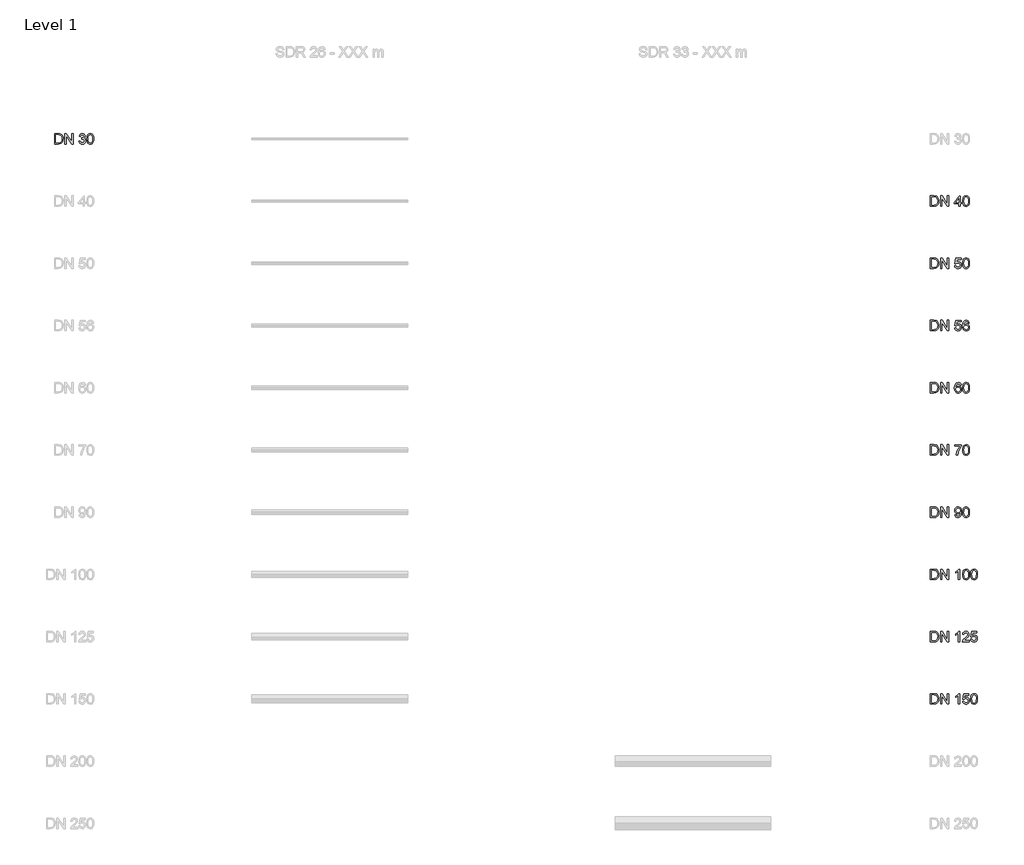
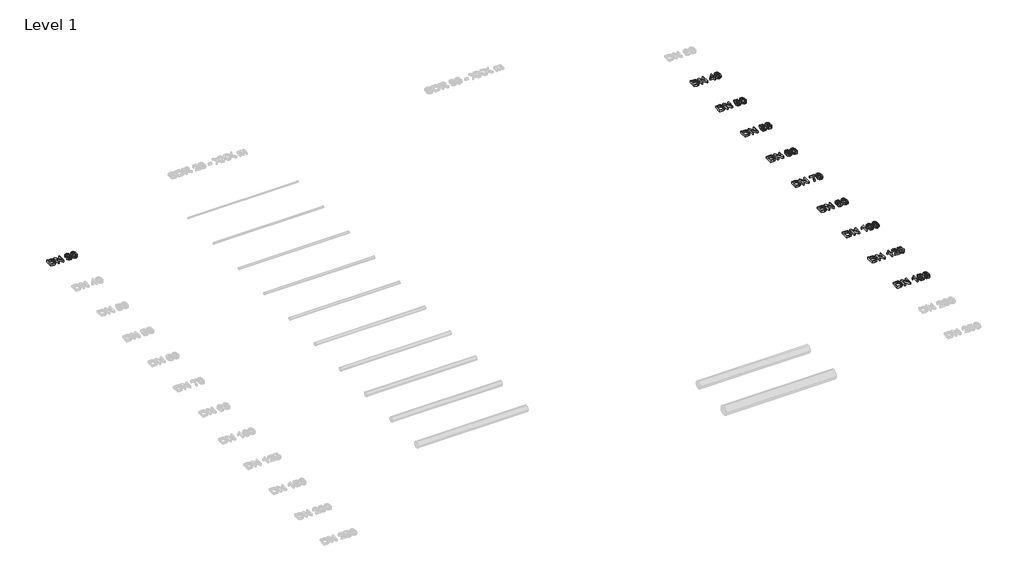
# One storey, part 3 of 4: 10 proxies.
"""IFC4 building model written with IfcOpenShell, lengths in millimetres."""

from ifc_helpers import new_model, si_unit, origin, origin_with_axes, place, context, project, spatial, polyline, outline, extrude, element, save

model = new_model("IFC4")

# Units and contexts
model_context = context("Model", 3, world=origin())
ifc_project = project(units=[si_unit("LENGTHUNIT", "METRE", prefix="MILLI")], contexts=[model_context])

# Site, building, storey
site = spatial("IfcSite", under=ifc_project)
building = spatial("IfcBuilding", under=site)
storey = spatial("IfcBuildingStorey", under=building, Name="Level 1", Elevation=0.0)

# Proxies
placement = place(None, origin())
element("IfcBuildingElementProxy", 1, Name="200mm Arial", ObjectType="200mm Arial", at=placement, inside=storey, context=model_context, shape_type="SweptSolid", body=[
    extrude(outline(polyline([(-19337.4878779, 486.050427), (-19337.4878779, 686.9630473), (-19268.17891, 686.9630473), (-19232.3226782, 684.0690423), (-19216.3075487, 678.4894987), (-19202.7940167, 669.697119), (-19188.90034, 654.393228), (-19179.0043144, 635.3614662), (-19173.0814143, 612.9697154), (-19171.1071142, 587.5858577), (-19176.4536659, 547.0452618), (-19190.187927, 517.7863805), (-19208.5329759, 499.563959), (-19232.5434074, 489.4839923), (-19264.8434466, 486.050427), (-19337.4878779, 486.050427)]), holes=[polyline([(-19312.3738004, 511.1645046), (-19267.9336553, 511.1645046), (-19235.6090907, 514.7942736), (-19216.9697363, 525.0459185), (-19208.2448016, 535.9168315), (-19201.6903707, 549.9883178), (-19197.5884865, 567.3216911), (-19196.2211917, 587.9782652), (-19198.9005989, 615.3486856), (-19206.9388205, 635.5576699), (-19218.8152776, 649.4390838), (-19233.0093913, 657.8267933), (-19268.6203684, 661.8489698), (-19312.3738004, 661.8489698), (-19312.3738004, 511.1645046)])]), origin_with_axes(), (0.0, 0.0, 1.0), 50.0),
    extrude(outline(polyline([(-19136.5752576, 486.050427), (-19136.5752576, 686.9630473), (-19109.6953465, 686.9630473), (-19004.7263505, 527.7927708), (-19004.7263505, 686.9630473), (-18979.612273, 686.9630473), (-18979.612273, 486.050427), (-19006.4921841, 486.050427), (-19111.4611801, 645.2697546), (-19111.4611801, 486.050427), (-19136.5752576, 486.050427)])), origin_with_axes(), (0.0, 0.0, 1.0), 50.0),
    extrude(outline(polyline([(-18866.5989241, 539.4178418), (-18841.4848465, 542.5571015), (-18835.8623834, 526.7749639), (-18827.627958, 516.1186488), (-18816.3769004, 510.0485959), (-18801.7045401, 508.0252449), (-18784.4876627, 510.8088853), (-18771.19486, 519.1598066), (-18762.6967859, 531.6187435), (-18759.8640945, 546.7264308), (-18762.6722604, 561.0676972), (-18771.0967581, 572.6988996), (-18783.8500006, 580.4060274), (-18799.6444009, 582.97507), (-18817.2536858, 580.2282178), (-18814.4577826, 605.3422953), (-18810.4356061, 605.0479898), (-18795.3892325, 606.8506115), (-18781.9370142, 612.2584769), (-18772.4456588, 621.4064758), (-18769.2818736, 634.4294984), (-18771.5750047, 645.2758859), (-18778.454398, 654.074397), (-18788.9512976, 659.9053266), (-18802.0969476, 661.8489698), (-18815.267123, 659.8869325), (-18826.0338027, 654.0008206), (-18833.8942147, 644.190634), (-18838.3455868, 630.4563729), (-18863.4596644, 633.5956326), (-18856.0652363, 656.1467989), (-18842.9073236, 672.9835315), (-18824.9056313, 683.4681684), (-18802.9798644, 686.9630473), (-18787.1915954, 685.2401333), (-18772.6909134, 680.0713913), (-18760.4649685, 671.9166737), (-18751.5009105, 661.2358331), (-18746.0010747, 648.9301804), (-18744.1677961, 635.9010264), (-18745.9091042, 623.7609206), (-18751.1330285, 612.7489862), (-18759.7659927, 603.3679953), (-18771.7344202, 596.12072), (-18756.0135963, 589.7686242), (-18744.3639998, 578.9528936), (-18737.1535127, 564.2621392), (-18734.750017, 546.2849724), (-18739.5570084, 521.808557), (-18753.9779826, 501.354318), (-18775.744334, 487.521955), (-18802.5874569, 482.9111674), (-18826.8676686, 486.8475047), (-18846.6351945, 498.6565167), (-18860.3817184, 516.7195227), (-18866.5989241, 539.4178418)])), origin_with_axes(), (0.0, 0.0, 1.0), 50.0),
    extrude(outline(polyline([(-18712.7751992, 584.8880564), (-18710.9296578, 617.0470742), (-18705.3930338, 642.6945806), (-18696.2205094, 662.2229832), (-18683.4672669, 676.0246894), (-18667.0413358, 684.2284578), (-18646.8507456, 686.9630473), (-18631.3751764, 685.3443666), (-18617.5182879, 680.4883242), (-18605.930005, 672.5849927), (-18597.2602527, 661.8244443), (-18585.4880288, 632.0995791), (-18580.9262921, 584.8880564), (-18582.7534393, 552.9129797), (-18588.2348811, 527.3267869), (-18597.3522232, 507.7799902), (-18610.0870716, 493.9231017), (-18626.5497909, 485.664151), (-18646.8507456, 482.9111674), (-18672.9458418, 487.6936333), (-18692.7624186, 502.0410311), (-18701.5180101, 517.1701782), (-18707.772004, 536.0210647), (-18712.7751992, 584.8880564)]), holes=[polyline([(-18687.6611216, 584.9371073), (-18684.7180657, 545.4327124), (-18675.8888978, 522.5688464), (-18662.7432478, 511.6611453), (-18646.8507456, 508.0252449), (-18630.9582434, 511.673408), (-18617.8125935, 522.6178974), (-18608.9834256, 545.4940261), (-18606.0403696, 584.9371073), (-18608.8853237, 623.5524541), (-18617.420186, 646.5941297), (-18630.5413105, 658.0352598), (-18647.1450512, 661.8489698), (-18662.8658751, 658.4889809), (-18675.4964903, 648.4090143), (-18684.6199638, 623.9325988), (-18687.6611216, 584.9371073)])]), origin_with_axes(), (0.0, 0.0, 1.0), 50.0),
])
element("IfcBuildingElementProxy", 2, Name="200mm Arial", ObjectType="200mm Arial", at=placement, inside=storey, context=model_context, shape_type="SweptSolid", body=[
    extrude(outline(polyline([(-2460.6923074, -713.949573), (-2460.6923074, -513.0369527), (-2391.3833395, -513.0369527), (-2355.5271077, -515.9309577), (-2339.5119782, -521.5105013), (-2325.9984462, -530.302881), (-2312.1047695, -545.606772), (-2302.2087438, -564.6385338), (-2296.2858437, -587.0302846), (-2294.3115437, -612.4141423), (-2299.6580953, -652.9547382), (-2313.3923565, -682.2136195), (-2331.7374053, -700.436041), (-2355.7478369, -710.5160077), (-2388.0478761, -713.949573), (-2460.6923074, -713.949573)]), holes=[polyline([(-2435.5782298, -688.8354954), (-2391.1380848, -688.8354954), (-2358.8135202, -685.2057264), (-2340.1741658, -674.9540815), (-2331.4492311, -664.0831685), (-2324.8948002, -650.0116822), (-2320.792916, -632.6783089), (-2319.4256212, -612.0217348), (-2322.1050284, -584.6513144), (-2330.14325, -564.4423301), (-2342.0197071, -550.5609162), (-2356.2138207, -542.1732067), (-2391.8247979, -538.1510302), (-2435.5782298, -538.1510302), (-2435.5782298, -688.8354954)])]), origin_with_axes(), (0.0, 0.0, 1.0), 50.0),
    extrude(outline(polyline([(-2259.7796871, -713.949573), (-2259.7796871, -513.0369527), (-2232.899776, -513.0369527), (-2127.93078, -672.2072292), (-2127.93078, -513.0369527), (-2102.8167025, -513.0369527), (-2102.8167025, -713.949573), (-2129.6966136, -713.949573), (-2234.6656095, -554.7302454), (-2234.6656095, -713.949573), (-2259.7796871, -713.949573)])), origin_with_axes(), (0.0, 0.0, 1.0), 50.0),
    extrude(outline(polyline([(-1908.1826015, -713.949573), (-1908.1826015, -666.8606776), (-1999.2211326, -666.8606776), (-1999.2211326, -641.7466), (-1901.9040822, -516.1762123), (-1883.068524, -516.1762123), (-1883.068524, -641.7466), (-1857.9544465, -641.7466), (-1857.9544465, -666.8606776), (-1883.068524, -666.8606776), (-1883.068524, -713.949573), (-1908.1826015, -713.949573)]), holes=[polyline([(-1908.1826015, -641.7466), (-1908.1826015, -564.1480245), (-1968.319045, -641.7466), (-1908.1826015, -641.7466)])]), origin_with_axes(), (0.0, 0.0, 1.0), 50.0),
    extrude(outline(polyline([(-1835.9796286, -615.1119436), (-1834.1340873, -582.9529258), (-1828.5974633, -557.3054194), (-1819.4249388, -537.7770168), (-1806.6716963, -523.9753106), (-1790.2457653, -515.7715422), (-1770.0551751, -513.0369527), (-1754.5796058, -514.6556334), (-1740.7227173, -519.5116758), (-1729.1344345, -527.4150073), (-1720.4646821, -538.1755557), (-1708.6924583, -567.9004209), (-1704.1307216, -615.1119436), (-1705.9578688, -647.0870203), (-1711.4393105, -672.6732131), (-1720.5566526, -692.2200098), (-1733.291501, -706.0768983), (-1749.7542203, -714.335849), (-1770.0551751, -717.0888326), (-1796.1502713, -712.3063667), (-1815.9668481, -697.9589689), (-1824.7224396, -682.8298218), (-1830.9764335, -663.9789353), (-1835.9796286, -615.1119436)]), holes=[polyline([(-1810.8655511, -615.0628927), (-1807.9224951, -654.5672876), (-1799.0933272, -677.4311536), (-1785.9476773, -688.3388547), (-1770.0551751, -691.9747551), (-1754.1626729, -688.326592), (-1741.0170229, -677.3821026), (-1732.1878551, -654.5059739), (-1729.2447991, -615.0628927), (-1732.0897532, -576.4475459), (-1740.6246155, -553.4058703), (-1753.74574, -541.9647402), (-1770.3494807, -538.1510302), (-1786.0703046, -541.5110191), (-1798.7009198, -551.5909857), (-1807.8243933, -576.0674012), (-1810.8655511, -615.0628927)])]), origin_with_axes(), (0.0, 0.0, 1.0), 50.0),
])
element("IfcBuildingElementProxy", 3, Name="200mm Arial", ObjectType="200mm Arial", at=placement, inside=storey, context=model_context, shape_type="SweptSolid", body=[
    extrude(outline(polyline([(-2460.6923074, -1913.949573), (-2460.6923074, -1713.0369527), (-2391.3833395, -1713.0369527), (-2355.5271077, -1715.9309577), (-2339.5119782, -1721.5105013), (-2325.9984462, -1730.302881), (-2312.1047695, -1745.606772), (-2302.2087438, -1764.6385338), (-2296.2858437, -1787.0302846), (-2294.3115437, -1812.4141423), (-2299.6580953, -1852.9547382), (-2313.3923565, -1882.2136195), (-2331.7374053, -1900.436041), (-2355.7478369, -1910.5160077), (-2388.0478761, -1913.949573), (-2460.6923074, -1913.949573)]), holes=[polyline([(-2435.5782298, -1888.8354954), (-2391.1380848, -1888.8354954), (-2358.8135202, -1885.2057264), (-2340.1741658, -1874.9540815), (-2331.4492311, -1864.0831685), (-2324.8948002, -1850.0116822), (-2320.792916, -1832.6783089), (-2319.4256212, -1812.0217348), (-2322.1050284, -1784.6513144), (-2330.14325, -1764.4423301), (-2342.0197071, -1750.5609162), (-2356.2138207, -1742.1732067), (-2391.8247979, -1738.1510302), (-2435.5782298, -1738.1510302), (-2435.5782298, -1888.8354954)])]), origin_with_axes(), (0.0, 0.0, 1.0), 50.0),
    extrude(outline(polyline([(-2259.7796871, -1913.949573), (-2259.7796871, -1713.0369527), (-2232.899776, -1713.0369527), (-2127.93078, -1872.2072292), (-2127.93078, -1713.0369527), (-2102.8167025, -1713.0369527), (-2102.8167025, -1913.949573), (-2129.6966136, -1913.949573), (-2234.6656095, -1754.7302454), (-2234.6656095, -1913.949573), (-2259.7796871, -1913.949573)])), origin_with_axes(), (0.0, 0.0, 1.0), 50.0),
    extrude(outline(polyline([(-1989.8033535, -1860.5821582), (-1964.689276, -1857.4428985), (-1960.0784883, -1872.5199289), (-1952.0341354, -1883.3172655), (-1940.5930053, -1889.8103827), (-1925.7918864, -1891.9747551), (-1907.7901941, -1888.9642541), (-1894.3011876, -1879.9327511), (-1885.8766899, -1865.9225785), (-1883.068524, -1847.9760685), (-1885.6988803, -1831.0780222), (-1893.5899491, -1818.1531014), (-1906.8030441, -1809.9493329), (-1925.3994789, -1807.2147434), (-1947.4478732, -1811.5802764), (-1961.5500163, -1822.9110419), (-1986.6640939, -1819.7717822), (-1964.689276, -1716.1762123), (-1867.3722255, -1716.1762123), (-1867.3722255, -1741.2902899), (-1944.3821899, -1741.2902899), (-1955.1243441, -1796.619742), (-1937.1839655, -1785.7304349), (-1918.3851955, -1782.1006659), (-1894.9204556, -1786.601089), (-1875.441104, -1800.1023582), (-1862.3261108, -1820.6792244), (-1857.9544465, -1846.4064386), (-1861.8907838, -1871.5205162), (-1873.6997959, -1893.0048247), (-1884.1353818, -1903.5415782), (-1896.3122758, -1911.0678307), (-1910.230478, -1915.5835821), (-1925.8899882, -1917.0888326), (-1950.556476, -1913.2199403), (-1970.2075059, -1901.6132634), (-1983.6781183, -1883.6177025), (-1989.8033535, -1860.5821582)])), origin_with_axes(), (0.0, 0.0, 1.0), 50.0),
    extrude(outline(polyline([(-1835.9796286, -1815.1119436), (-1834.1340873, -1782.9529258), (-1828.5974633, -1757.3054194), (-1819.4249388, -1737.7770168), (-1806.6716963, -1723.9753106), (-1790.2457653, -1715.7715422), (-1770.0551751, -1713.0369527), (-1754.5796058, -1714.6556334), (-1740.7227173, -1719.5116758), (-1729.1344345, -1727.4150073), (-1720.4646821, -1738.1755557), (-1708.6924583, -1767.9004209), (-1704.1307216, -1815.1119436), (-1705.9578688, -1847.0870203), (-1711.4393105, -1872.6732131), (-1720.5566526, -1892.2200098), (-1733.291501, -1906.0768983), (-1749.7542203, -1914.335849), (-1770.0551751, -1917.0888326), (-1796.1502713, -1912.3063667), (-1815.9668481, -1897.9589689), (-1824.7224396, -1882.8298218), (-1830.9764335, -1863.9789353), (-1835.9796286, -1815.1119436)]), holes=[polyline([(-1810.8655511, -1815.0628927), (-1807.9224951, -1854.5672876), (-1799.0933272, -1877.4311536), (-1785.9476773, -1888.3388547), (-1770.0551751, -1891.9747551), (-1754.1626729, -1888.326592), (-1741.0170229, -1877.3821026), (-1732.1878551, -1854.5059739), (-1729.2447991, -1815.0628927), (-1732.0897532, -1776.4475459), (-1740.6246155, -1753.4058703), (-1753.74574, -1741.9647402), (-1770.3494807, -1738.1510302), (-1786.0703046, -1741.5110191), (-1798.7009198, -1751.5909857), (-1807.8243933, -1776.0674012), (-1810.8655511, -1815.0628927)])]), origin_with_axes(), (0.0, 0.0, 1.0), 50.0),
])
element("IfcBuildingElementProxy", 4, Name="200mm Arial", ObjectType="200mm Arial", at=placement, inside=storey, context=model_context, shape_type="SweptSolid", body=[
    extrude(outline(polyline([(-2460.6923074, -3113.949573), (-2460.6923074, -2913.0369527), (-2391.3833395, -2913.0369527), (-2355.5271077, -2915.9309577), (-2339.5119782, -2921.5105013), (-2325.9984462, -2930.302881), (-2312.1047695, -2945.606772), (-2302.2087438, -2964.6385338), (-2296.2858437, -2987.0302846), (-2294.3115437, -3012.4141423), (-2299.6580953, -3052.9547382), (-2313.3923565, -3082.2136195), (-2331.7374053, -3100.436041), (-2355.7478369, -3110.5160077), (-2388.0478761, -3113.949573), (-2460.6923074, -3113.949573)]), holes=[polyline([(-2435.5782298, -3088.8354954), (-2391.1380848, -3088.8354954), (-2358.8135202, -3085.2057264), (-2340.1741658, -3074.9540815), (-2331.4492311, -3064.0831685), (-2324.8948002, -3050.0116822), (-2320.792916, -3032.6783089), (-2319.4256212, -3012.0217348), (-2322.1050284, -2984.6513144), (-2330.14325, -2964.4423301), (-2342.0197071, -2950.5609162), (-2356.2138207, -2942.1732067), (-2391.8247979, -2938.1510302), (-2435.5782298, -2938.1510302), (-2435.5782298, -3088.8354954)])]), origin_with_axes(), (0.0, 0.0, 1.0), 50.0),
    extrude(outline(polyline([(-2259.7796871, -3113.949573), (-2259.7796871, -2913.0369527), (-2232.899776, -2913.0369527), (-2127.93078, -3072.2072292), (-2127.93078, -2913.0369527), (-2102.8167025, -2913.0369527), (-2102.8167025, -3113.949573), (-2129.6966136, -3113.949573), (-2234.6656095, -2954.7302454), (-2234.6656095, -3113.949573), (-2259.7796871, -3113.949573)])), origin_with_axes(), (0.0, 0.0, 1.0), 50.0),
    extrude(outline(polyline([(-1989.8033535, -3060.5821582), (-1964.689276, -3057.4428985), (-1960.0784883, -3072.5199289), (-1952.0341354, -3083.3172655), (-1940.5930053, -3089.8103827), (-1925.7918864, -3091.9747551), (-1907.7901941, -3088.9642541), (-1894.3011876, -3079.9327511), (-1885.8766899, -3065.9225785), (-1883.068524, -3047.9760685), (-1885.6988803, -3031.0780222), (-1893.5899491, -3018.1531014), (-1906.8030441, -3009.9493329), (-1925.3994789, -3007.2147434), (-1947.4478732, -3011.5802764), (-1961.5500163, -3022.9110419), (-1986.6640939, -3019.7717822), (-1964.689276, -2916.1762123), (-1867.3722255, -2916.1762123), (-1867.3722255, -2941.2902899), (-1944.3821899, -2941.2902899), (-1955.1243441, -2996.619742), (-1937.1839655, -2985.7304349), (-1918.3851955, -2982.1006659), (-1894.9204556, -2986.601089), (-1875.441104, -3000.1023582), (-1862.3261108, -3020.6792244), (-1857.9544465, -3046.4064386), (-1861.8907838, -3071.5205162), (-1873.6997959, -3093.0048247), (-1884.1353818, -3103.5415782), (-1896.3122758, -3111.0678307), (-1910.230478, -3115.5835821), (-1925.8899882, -3117.0888326), (-1950.556476, -3113.2199403), (-1970.2075059, -3101.6132634), (-1983.6781183, -3083.6177025), (-1989.8033535, -3060.5821582)])), origin_with_axes(), (0.0, 0.0, 1.0), 50.0),
    extrude(outline(polyline([(-1707.2699812, -2966.4043674), (-1732.3840588, -2969.5436271), (-1741.8999397, -2948.5988789), (-1753.2920188, -2940.7629924), (-1767.0630682, -2938.1510302), (-1789.7245991, -2944.2333458), (-1799.1607723, -2953.8411973), (-1806.8679001, -2967.066555), (-1812.0734303, -2985.7733545), (-1814.0048108, -3011.8255311), (-1803.9309755, -3000.0717013), (-1791.8583147, -2991.7882251), (-1778.4612787, -2986.8770005), (-1764.4143178, -2985.2399256), (-1741.2132267, -2989.7158232), (-1721.7400064, -3003.143516), (-1708.5330428, -3023.6590686), (-1704.1307216, -3049.3985455), (-1706.2031235, -3067.3818437), (-1712.4203292, -3084.0530295), (-1722.2673039, -3098.1919608), (-1735.2290129, -3108.5784958), (-1750.7168449, -3114.9612484), (-1768.1421887, -3117.0888326), (-1796.6346492, -3111.4479754), (-1819.326837, -3094.5254036), (-1827.9858594, -3081.4165418), (-1834.1708755, -3064.6533856), (-1839.1188883, -3020.1641897), (-1833.6251839, -2970.144501), (-1826.7580533, -2951.0667539), (-1817.1440705, -2935.9437382), (-1806.723813, -2925.9220195), (-1794.6419551, -2918.763649), (-1765.4934384, -2913.0369527), (-1743.4573068, -2916.5808825), (-1725.8112338, -2927.2126722), (-1713.4503988, -2944.0984558), (-1707.2699812, -2966.4043674)]), holes=[polyline([(-1814.0048108, -3049.0061381), (-1808.1922753, -3070.7602267), (-1792.7412315, -3086.554627), (-1770.104226, -3091.9747551), (-1753.5311421, -3089.1665892), (-1740.5019881, -3080.7420915), (-1732.0590964, -3067.4983397), (-1729.2447991, -3050.2324114), (-1732.0223082, -3033.6593275), (-1740.3548353, -3021.022581), (-1753.6047185, -3013.0211476), (-1771.1342956, -3010.3540031), (-1787.682854, -3013.0211476), (-1801.5213484, -3021.022581), (-1810.8839452, -3033.3527592), (-1814.0048108, -3049.0061381)])]), origin_with_axes(), (0.0, 0.0, 1.0), 50.0),
])
element("IfcBuildingElementProxy", 5, Name="200mm Arial", ObjectType="200mm Arial", at=placement, inside=storey, context=model_context, shape_type="SweptSolid", body=[
    extrude(outline(polyline([(-2460.6923074, -4313.949573), (-2460.6923074, -4113.0369527), (-2391.3833395, -4113.0369527), (-2355.5271077, -4115.9309577), (-2339.5119782, -4121.5105013), (-2325.9984462, -4130.302881), (-2312.1047695, -4145.606772), (-2302.2087438, -4164.6385338), (-2296.2858437, -4187.0302846), (-2294.3115437, -4212.4141423), (-2299.6580953, -4252.9547382), (-2313.3923565, -4282.2136195), (-2331.7374053, -4300.436041), (-2355.7478369, -4310.5160077), (-2388.0478761, -4313.949573), (-2460.6923074, -4313.949573)]), holes=[polyline([(-2435.5782298, -4288.8354954), (-2391.1380848, -4288.8354954), (-2358.8135202, -4285.2057264), (-2340.1741658, -4274.9540815), (-2331.4492311, -4264.0831685), (-2324.8948002, -4250.0116822), (-2320.792916, -4232.6783089), (-2319.4256212, -4212.0217348), (-2322.1050284, -4184.6513144), (-2330.14325, -4164.4423301), (-2342.0197071, -4150.5609162), (-2356.2138207, -4142.1732067), (-2391.8247979, -4138.1510302), (-2435.5782298, -4138.1510302), (-2435.5782298, -4288.8354954)])]), origin_with_axes(), (0.0, 0.0, 1.0), 50.0),
    extrude(outline(polyline([(-2259.7796871, -4313.949573), (-2259.7796871, -4113.0369527), (-2232.899776, -4113.0369527), (-2127.93078, -4272.2072292), (-2127.93078, -4113.0369527), (-2102.8167025, -4113.0369527), (-2102.8167025, -4313.949573), (-2129.6966136, -4313.949573), (-2234.6656095, -4154.7302454), (-2234.6656095, -4313.949573), (-2259.7796871, -4313.949573)])), origin_with_axes(), (0.0, 0.0, 1.0), 50.0),
    extrude(outline(polyline([(-1861.0937062, -4166.4043674), (-1886.2077837, -4169.5436271), (-1895.7236646, -4148.5988789), (-1907.1157438, -4140.7629924), (-1920.8867931, -4138.1510302), (-1943.548324, -4144.2333458), (-1952.9844972, -4153.8411973), (-1960.691625, -4167.066555), (-1965.8971552, -4185.7733545), (-1967.8285357, -4211.8255311), (-1957.7547004, -4200.0717013), (-1945.6820396, -4191.7882251), (-1932.2850036, -4186.8770005), (-1918.2380427, -4185.2399256), (-1895.0369516, -4189.7158232), (-1875.5637313, -4203.143516), (-1862.3567677, -4223.6590686), (-1857.9544465, -4249.3985455), (-1860.0268484, -4267.3818437), (-1866.2440541, -4284.0530295), (-1876.0910288, -4298.1919608), (-1889.0527378, -4308.5784958), (-1904.5405698, -4314.9612484), (-1921.9659136, -4317.0888326), (-1950.4583742, -4311.4479754), (-1973.1505619, -4294.5254036), (-1981.8095844, -4281.4165418), (-1987.9946004, -4264.6533856), (-1992.9426132, -4220.1641897), (-1987.4489088, -4170.144501), (-1980.5817782, -4151.0667539), (-1970.9677954, -4135.9437382), (-1960.5475379, -4125.9220195), (-1948.46568, -4118.763649), (-1919.3171633, -4113.0369527), (-1897.2810318, -4116.5808825), (-1879.6349587, -4127.2126722), (-1867.2741237, -4144.0984558), (-1861.0937062, -4166.4043674)]), holes=[polyline([(-1967.8285357, -4249.0061381), (-1962.0160002, -4270.7602267), (-1946.5649564, -4286.554627), (-1923.9279509, -4291.9747551), (-1907.3548671, -4289.1665892), (-1894.3257131, -4280.7420915), (-1885.8828213, -4267.4983397), (-1883.068524, -4250.2324114), (-1885.8460331, -4233.6593275), (-1894.1785603, -4221.022581), (-1907.4284435, -4213.0211476), (-1924.9580205, -4210.3540031), (-1941.5065789, -4213.0211476), (-1955.3450733, -4221.022581), (-1964.7076701, -4233.3527592), (-1967.8285357, -4249.0061381)])]), origin_with_axes(), (0.0, 0.0, 1.0), 50.0),
    extrude(outline(polyline([(-1835.9796286, -4215.1119436), (-1834.1340873, -4182.9529258), (-1828.5974633, -4157.3054194), (-1819.4249388, -4137.7770168), (-1806.6716963, -4123.9753106), (-1790.2457653, -4115.7715422), (-1770.0551751, -4113.0369527), (-1754.5796058, -4114.6556334), (-1740.7227173, -4119.5116758), (-1729.1344345, -4127.4150073), (-1720.4646821, -4138.1755557), (-1708.6924583, -4167.9004209), (-1704.1307216, -4215.1119436), (-1705.9578688, -4247.0870203), (-1711.4393105, -4272.6732131), (-1720.5566526, -4292.2200098), (-1733.291501, -4306.0768983), (-1749.7542203, -4314.335849), (-1770.0551751, -4317.0888326), (-1796.1502713, -4312.3063667), (-1815.9668481, -4297.9589689), (-1824.7224396, -4282.8298218), (-1830.9764335, -4263.9789353), (-1835.9796286, -4215.1119436)]), holes=[polyline([(-1810.8655511, -4215.0628927), (-1807.9224951, -4254.5672876), (-1799.0933272, -4277.4311536), (-1785.9476773, -4288.3388547), (-1770.0551751, -4291.9747551), (-1754.1626729, -4288.326592), (-1741.0170229, -4277.3821026), (-1732.1878551, -4254.5059739), (-1729.2447991, -4215.0628927), (-1732.0897532, -4176.4475459), (-1740.6246155, -4153.4058703), (-1753.74574, -4141.9647402), (-1770.3494807, -4138.1510302), (-1786.0703046, -4141.5110191), (-1798.7009198, -4151.5909857), (-1807.8243933, -4176.0674012), (-1810.8655511, -4215.0628927)])]), origin_with_axes(), (0.0, 0.0, 1.0), 50.0),
])
element("IfcBuildingElementProxy", 6, Name="200mm Arial", ObjectType="200mm Arial", at=placement, inside=storey, context=model_context, shape_type="SweptSolid", body=[
    extrude(outline(polyline([(-2460.6923074, -5513.949573), (-2460.6923074, -5313.0369527), (-2391.3833395, -5313.0369527), (-2355.5271077, -5315.9309577), (-2339.5119782, -5321.5105013), (-2325.9984462, -5330.302881), (-2312.1047695, -5345.606772), (-2302.2087438, -5364.6385338), (-2296.2858437, -5387.0302846), (-2294.3115437, -5412.4141423), (-2299.6580953, -5452.9547382), (-2313.3923565, -5482.2136195), (-2331.7374053, -5500.436041), (-2355.7478369, -5510.5160077), (-2388.0478761, -5513.949573), (-2460.6923074, -5513.949573)]), holes=[polyline([(-2435.5782298, -5488.8354954), (-2391.1380848, -5488.8354954), (-2358.8135202, -5485.2057264), (-2340.1741658, -5474.9540815), (-2331.4492311, -5464.0831685), (-2324.8948002, -5450.0116822), (-2320.792916, -5432.6783089), (-2319.4256212, -5412.0217348), (-2322.1050284, -5384.6513144), (-2330.14325, -5364.4423301), (-2342.0197071, -5350.5609162), (-2356.2138207, -5342.1732067), (-2391.8247979, -5338.1510302), (-2435.5782298, -5338.1510302), (-2435.5782298, -5488.8354954)])]), origin_with_axes(), (0.0, 0.0, 1.0), 50.0),
    extrude(outline(polyline([(-2259.7796871, -5513.949573), (-2259.7796871, -5313.0369527), (-2232.899776, -5313.0369527), (-2127.93078, -5472.2072292), (-2127.93078, -5313.0369527), (-2102.8167025, -5313.0369527), (-2102.8167025, -5513.949573), (-2129.6966136, -5513.949573), (-2234.6656095, -5354.7302454), (-2234.6656095, -5513.949573), (-2259.7796871, -5513.949573)])), origin_with_axes(), (0.0, 0.0, 1.0), 50.0),
    extrude(outline(polyline([(-1989.8033535, -5341.2902899), (-1989.8033535, -5316.1762123), (-1857.9544465, -5316.1762123), (-1857.9544465, -5336.4832985), (-1876.7470851, -5360.2668695), (-1895.3557826, -5390.5129008), (-1911.769451, -5424.4622776), (-1923.9770019, -5459.3558849), (-1933.2966791, -5513.949573), (-1958.4107566, -5513.949573), (-1955.6945612, -5488.0629432), (-1948.4288918, -5457.2957457), (-1936.8099521, -5424.6830068), (-1921.0339459, -5393.2597531), (-1902.6153207, -5364.8531317), (-1883.068524, -5341.2902899), (-1989.8033535, -5341.2902899)])), origin_with_axes(), (0.0, 0.0, 1.0), 50.0),
    extrude(outline(polyline([(-1835.9796286, -5415.1119436), (-1834.1340873, -5382.9529258), (-1828.5974633, -5357.3054194), (-1819.4249388, -5337.7770168), (-1806.6716963, -5323.9753106), (-1790.2457653, -5315.7715422), (-1770.0551751, -5313.0369527), (-1754.5796058, -5314.6556334), (-1740.7227173, -5319.5116758), (-1729.1344345, -5327.4150073), (-1720.4646821, -5338.1755557), (-1708.6924583, -5367.9004209), (-1704.1307216, -5415.1119436), (-1705.9578688, -5447.0870203), (-1711.4393105, -5472.6732131), (-1720.5566526, -5492.2200098), (-1733.291501, -5506.0768983), (-1749.7542203, -5514.335849), (-1770.0551751, -5517.0888326), (-1796.1502713, -5512.3063667), (-1815.9668481, -5497.9589689), (-1824.7224396, -5482.8298218), (-1830.9764335, -5463.9789353), (-1835.9796286, -5415.1119436)]), holes=[polyline([(-1810.8655511, -5415.0628927), (-1807.9224951, -5454.5672876), (-1799.0933272, -5477.4311536), (-1785.9476773, -5488.3388547), (-1770.0551751, -5491.9747551), (-1754.1626729, -5488.326592), (-1741.0170229, -5477.3821026), (-1732.1878551, -5454.5059739), (-1729.2447991, -5415.0628927), (-1732.0897532, -5376.4475459), (-1740.6246155, -5353.4058703), (-1753.74574, -5341.9647402), (-1770.3494807, -5338.1510302), (-1786.0703046, -5341.5110191), (-1798.7009198, -5351.5909857), (-1807.8243933, -5376.0674012), (-1810.8655511, -5415.0628927)])]), origin_with_axes(), (0.0, 0.0, 1.0), 50.0),
])
element("IfcBuildingElementProxy", 7, Name="200mm Arial", ObjectType="200mm Arial", at=placement, inside=storey, context=model_context, shape_type="SweptSolid", body=[
    extrude(outline(polyline([(-2460.6923074, -6713.949573), (-2460.6923074, -6513.0369527), (-2391.3833395, -6513.0369527), (-2355.5271077, -6515.9309577), (-2339.5119782, -6521.5105013), (-2325.9984462, -6530.302881), (-2312.1047695, -6545.606772), (-2302.2087438, -6564.6385338), (-2296.2858437, -6587.0302846), (-2294.3115437, -6612.4141423), (-2299.6580953, -6652.9547382), (-2313.3923565, -6682.2136195), (-2331.7374053, -6700.436041), (-2355.7478369, -6710.5160077), (-2388.0478761, -6713.949573), (-2460.6923074, -6713.949573)]), holes=[polyline([(-2435.5782298, -6688.8354954), (-2391.1380848, -6688.8354954), (-2358.8135202, -6685.2057264), (-2340.1741658, -6674.9540815), (-2331.4492311, -6664.0831685), (-2324.8948002, -6650.0116822), (-2320.792916, -6632.6783089), (-2319.4256212, -6612.0217348), (-2322.1050284, -6584.6513144), (-2330.14325, -6564.4423301), (-2342.0197071, -6550.5609162), (-2356.2138207, -6542.1732067), (-2391.8247979, -6538.1510302), (-2435.5782298, -6538.1510302), (-2435.5782298, -6688.8354954)])]), origin_with_axes(), (0.0, 0.0, 1.0), 50.0),
    extrude(outline(polyline([(-2259.7796871, -6713.949573), (-2259.7796871, -6513.0369527), (-2232.899776, -6513.0369527), (-2127.93078, -6672.2072292), (-2127.93078, -6513.0369527), (-2102.8167025, -6513.0369527), (-2102.8167025, -6713.949573), (-2129.6966136, -6713.949573), (-2234.6656095, -6554.7302454), (-2234.6656095, -6713.949573), (-2259.7796871, -6713.949573)])), origin_with_axes(), (0.0, 0.0, 1.0), 50.0),
    extrude(outline(polyline([(-1986.6640939, -6663.7214179), (-1961.5500163, -6660.5821582), (-1957.2580597, -6674.8375855), (-1950.2683018, -6684.5435388), (-1940.7524209, -6690.116951), (-1928.8820951, -6691.9747551), (-1908.5504835, -6687.1922892), (-1894.7671715, -6674.4145212), (-1886.5511402, -6652.5868562), (-1882.9213712, -6623.4506021), (-1883.068524, -6618.5455089), (-1891.7689332, -6629.1650358), (-1903.1548809, -6637.5772708), (-1916.4047641, -6643.0587125), (-1930.6969797, -6644.8858597), (-1953.5976339, -6640.4222249), (-1972.6600526, -6627.0313202), (-1985.5175283, -6606.3440894), (-1989.8033535, -6579.9914758), (-1985.3090618, -6552.7682081), (-1971.8261867, -6531.4310524), (-1951.5742829, -6517.6354776), (-1926.772905, -6513.0369527), (-1908.0415801, -6515.6611776), (-1890.9902496, -6523.5338523), (-1876.728691, -6536.2625693), (-1866.3666814, -6553.4549212), (-1860.0575052, -6577.2200981), (-1857.9544465, -6609.6672901), (-1860.0513738, -6644.070388), (-1866.342156, -6670.6621249), (-1876.7716105, -6690.6442486), (-1891.2845552, -6705.2185069), (-1909.2555907, -6714.1212512), (-1930.0593175, -6717.0888326), (-1951.5313633, -6713.5878223), (-1968.6624016, -6703.0847914), (-1980.6430919, -6686.2419274), (-1986.6640939, -6663.7214179)]), holes=[polyline([(-1883.068524, -6579.4028646), (-1885.778588, -6562.3821909), (-1893.9087801, -6549.2855919), (-1906.5271326, -6540.9346706), (-1922.7016776, -6538.1510302), (-1939.4770966, -6541.1492685), (-1952.9170522, -6550.1439832), (-1961.74622, -6563.9089012), (-1964.689276, -6581.2177491), (-1961.9056356, -6596.7362379), (-1953.5547143, -6609.0541534), (-1940.4458525, -6617.092375), (-1923.3883907, -6619.7717822), (-1907.3426043, -6617.092375), (-1894.4238149, -6609.0541534), (-1885.9073467, -6596.2825168), (-1883.068524, -6579.4028646)])]), origin_with_axes(), (0.0, 0.0, 1.0), 50.0),
    extrude(outline(polyline([(-1835.9796286, -6615.1119436), (-1834.1340873, -6582.9529258), (-1828.5974633, -6557.3054194), (-1819.4249388, -6537.7770168), (-1806.6716963, -6523.9753106), (-1790.2457653, -6515.7715422), (-1770.0551751, -6513.0369527), (-1754.5796058, -6514.6556334), (-1740.7227173, -6519.5116758), (-1729.1344345, -6527.4150073), (-1720.4646821, -6538.1755557), (-1708.6924583, -6567.9004209), (-1704.1307216, -6615.1119436), (-1705.9578688, -6647.0870203), (-1711.4393105, -6672.6732131), (-1720.5566526, -6692.2200098), (-1733.291501, -6706.0768983), (-1749.7542203, -6714.335849), (-1770.0551751, -6717.0888326), (-1796.1502713, -6712.3063667), (-1815.9668481, -6697.9589689), (-1824.7224396, -6682.8298218), (-1830.9764335, -6663.9789353), (-1835.9796286, -6615.1119436)]), holes=[polyline([(-1810.8655511, -6615.0628927), (-1807.9224951, -6654.5672876), (-1799.0933272, -6677.4311536), (-1785.9476773, -6688.3388547), (-1770.0551751, -6691.9747551), (-1754.1626729, -6688.326592), (-1741.0170229, -6677.3821026), (-1732.1878551, -6654.5059739), (-1729.2447991, -6615.0628927), (-1732.0897532, -6576.4475459), (-1740.6246155, -6553.4058703), (-1753.74574, -6541.9647402), (-1770.3494807, -6538.1510302), (-1786.0703046, -6541.5110191), (-1798.7009198, -6551.5909857), (-1807.8243933, -6576.0674012), (-1810.8655511, -6615.0628927)])]), origin_with_axes(), (0.0, 0.0, 1.0), 50.0),
])
element("IfcBuildingElementProxy", 8, Name="200mm Arial", ObjectType="200mm Arial", at=placement, inside=storey, context=model_context, shape_type="SweptSolid", body=[
    extrude(outline(polyline([(-2460.6923074, -7913.949573), (-2460.6923074, -7713.0369527), (-2391.3833395, -7713.0369527), (-2355.5271077, -7715.9309577), (-2339.5119782, -7721.5105013), (-2325.9984462, -7730.302881), (-2312.1047695, -7745.606772), (-2302.2087438, -7764.6385338), (-2296.2858437, -7787.0302846), (-2294.3115437, -7812.4141423), (-2299.6580953, -7852.9547382), (-2313.3923565, -7882.2136195), (-2331.7374053, -7900.436041), (-2355.7478369, -7910.5160077), (-2388.0478761, -7913.949573), (-2460.6923074, -7913.949573)]), holes=[polyline([(-2435.5782298, -7888.8354954), (-2391.1380848, -7888.8354954), (-2358.8135202, -7885.2057264), (-2340.1741658, -7874.9540815), (-2331.4492311, -7864.0831685), (-2324.8948002, -7850.0116822), (-2320.792916, -7832.6783089), (-2319.4256212, -7812.0217348), (-2322.1050284, -7784.6513144), (-2330.14325, -7764.4423301), (-2342.0197071, -7750.5609162), (-2356.2138207, -7742.1732067), (-2391.8247979, -7738.1510302), (-2435.5782298, -7738.1510302), (-2435.5782298, -7888.8354954)])]), origin_with_axes(), (0.0, 0.0, 1.0), 50.0),
    extrude(outline(polyline([(-2259.7796871, -7913.949573), (-2259.7796871, -7713.0369527), (-2232.899776, -7713.0369527), (-2127.93078, -7872.2072292), (-2127.93078, -7713.0369527), (-2102.8167025, -7713.0369527), (-2102.8167025, -7913.949573), (-2129.6966136, -7913.949573), (-2234.6656095, -7754.7302454), (-2234.6656095, -7913.949573), (-2259.7796871, -7913.949573)])), origin_with_axes(), (0.0, 0.0, 1.0), 50.0),
    extrude(outline(polyline([(-1895.6255628, -7913.949573), (-1920.7396403, -7913.949573), (-1920.7396403, -7757.3789958), (-1944.5293427, -7774.3260931), (-1970.9677954, -7787.0057592), (-1970.9677954, -7763.2651077), (-1934.1550704, -7739.769711), (-1920.684458, -7726.1948653), (-1911.8123706, -7713.0369527), (-1895.6255628, -7713.0369527), (-1895.6255628, -7913.949573)])), origin_with_axes(), (0.0, 0.0, 1.0), 50.0),
    extrude(outline(polyline([(-1835.9796286, -7815.1119436), (-1834.1340873, -7782.9529258), (-1828.5974633, -7757.3054194), (-1819.4249388, -7737.7770168), (-1806.6716963, -7723.9753106), (-1790.2457653, -7715.7715422), (-1770.0551751, -7713.0369527), (-1754.5796058, -7714.6556334), (-1740.7227173, -7719.5116758), (-1729.1344345, -7727.4150073), (-1720.4646821, -7738.1755557), (-1708.6924583, -7767.9004209), (-1704.1307216, -7815.1119436), (-1705.9578688, -7847.0870203), (-1711.4393105, -7872.6732131), (-1720.5566526, -7892.2200098), (-1733.291501, -7906.0768983), (-1749.7542203, -7914.335849), (-1770.0551751, -7917.0888326), (-1796.1502713, -7912.3063667), (-1815.9668481, -7897.9589689), (-1824.7224396, -7882.8298218), (-1830.9764335, -7863.9789353), (-1835.9796286, -7815.1119436)]), holes=[polyline([(-1810.8655511, -7815.0628927), (-1807.9224951, -7854.5672876), (-1799.0933272, -7877.4311536), (-1785.9476773, -7888.3388547), (-1770.0551751, -7891.9747551), (-1754.1626729, -7888.326592), (-1741.0170229, -7877.3821026), (-1732.1878551, -7854.5059739), (-1729.2447991, -7815.0628927), (-1732.0897532, -7776.4475459), (-1740.6246155, -7753.4058703), (-1753.74574, -7741.9647402), (-1770.3494807, -7738.1510302), (-1786.0703046, -7741.5110191), (-1798.7009198, -7751.5909857), (-1807.8243933, -7776.0674012), (-1810.8655511, -7815.0628927)])]), origin_with_axes(), (0.0, 0.0, 1.0), 50.0),
    extrude(outline(polyline([(-1682.1559037, -7815.1119436), (-1680.3103624, -7782.9529258), (-1674.7737383, -7757.3054194), (-1665.6012139, -7737.7770168), (-1652.8479714, -7723.9753106), (-1636.4220403, -7715.7715422), (-1616.2314502, -7713.0369527), (-1600.7558809, -7714.6556334), (-1586.8989924, -7719.5116758), (-1575.3107096, -7727.4150073), (-1566.6409572, -7738.1755557), (-1554.8687334, -7767.9004209), (-1550.3069966, -7815.1119436), (-1552.1341439, -7847.0870203), (-1557.6155856, -7872.6732131), (-1566.7329277, -7892.2200098), (-1579.4677761, -7906.0768983), (-1595.9304954, -7914.335849), (-1616.2314502, -7917.0888326), (-1642.3265464, -7912.3063667), (-1662.1431232, -7897.9589689), (-1670.8987147, -7882.8298218), (-1677.1527086, -7863.9789353), (-1682.1559037, -7815.1119436)]), holes=[polyline([(-1657.0418262, -7815.0628927), (-1654.0987702, -7854.5672876), (-1645.2696023, -7877.4311536), (-1632.1239524, -7888.3388547), (-1616.2314502, -7891.9747551), (-1600.338948, -7888.326592), (-1587.193298, -7877.3821026), (-1578.3641301, -7854.5059739), (-1575.4210742, -7815.0628927), (-1578.2660283, -7776.4475459), (-1586.8008906, -7753.4058703), (-1599.9220151, -7741.9647402), (-1616.5257558, -7738.1510302), (-1632.2465797, -7741.5110191), (-1644.8771949, -7751.5909857), (-1654.0006683, -7776.0674012), (-1657.0418262, -7815.0628927)])]), origin_with_axes(), (0.0, 0.0, 1.0), 50.0),
])
element("IfcBuildingElementProxy", 9, Name="200mm Arial", ObjectType="200mm Arial", at=placement, inside=storey, context=model_context, shape_type="SweptSolid", body=[
    extrude(outline(polyline([(-2460.6923074, -9113.949573), (-2460.6923074, -8913.0369527), (-2391.3833395, -8913.0369527), (-2355.5271077, -8915.9309577), (-2339.5119782, -8921.5105013), (-2325.9984462, -8930.302881), (-2312.1047695, -8945.606772), (-2302.2087438, -8964.6385338), (-2296.2858437, -8987.0302846), (-2294.3115437, -9012.4141423), (-2299.6580953, -9052.9547382), (-2313.3923565, -9082.2136195), (-2331.7374053, -9100.436041), (-2355.7478369, -9110.5160077), (-2388.0478761, -9113.949573), (-2460.6923074, -9113.949573)]), holes=[polyline([(-2435.5782298, -9088.8354954), (-2391.1380848, -9088.8354954), (-2358.8135202, -9085.2057264), (-2340.1741658, -9074.9540815), (-2331.4492311, -9064.0831685), (-2324.8948002, -9050.0116822), (-2320.792916, -9032.6783089), (-2319.4256212, -9012.0217348), (-2322.1050284, -8984.6513144), (-2330.14325, -8964.4423301), (-2342.0197071, -8950.5609162), (-2356.2138207, -8942.1732067), (-2391.8247979, -8938.1510302), (-2435.5782298, -8938.1510302), (-2435.5782298, -9088.8354954)])]), origin_with_axes(), (0.0, 0.0, 1.0), 50.0),
    extrude(outline(polyline([(-2259.7796871, -9113.949573), (-2259.7796871, -8913.0369527), (-2232.899776, -8913.0369527), (-2127.93078, -9072.2072292), (-2127.93078, -8913.0369527), (-2102.8167025, -8913.0369527), (-2102.8167025, -9113.949573), (-2129.6966136, -9113.949573), (-2234.6656095, -8954.7302454), (-2234.6656095, -9113.949573), (-2259.7796871, -9113.949573)])), origin_with_axes(), (0.0, 0.0, 1.0), 50.0),
    extrude(outline(polyline([(-1895.6255628, -9113.949573), (-1920.7396403, -9113.949573), (-1920.7396403, -8957.3789958), (-1944.5293427, -8974.3260931), (-1970.9677954, -8987.0057592), (-1970.9677954, -8963.2651077), (-1934.1550704, -8939.769711), (-1920.684458, -8926.1948653), (-1911.8123706, -8913.0369527), (-1895.6255628, -8913.0369527), (-1895.6255628, -9113.949573)])), origin_with_axes(), (0.0, 0.0, 1.0), 50.0),
    extrude(outline(polyline([(-1707.2699812, -9088.8354954), (-1707.2699812, -9113.949573), (-1839.1188883, -9113.949573), (-1836.421087, -9096.6345937), (-1821.166247, -9069.9754118), (-1789.7245991, -9040.8636832), (-1746.3635746, -8999.0232377), (-1738.2333825, -8984.6022634), (-1735.5233185, -8970.5736967), (-1738.0800983, -8957.9982638), (-1745.7504379, -8947.5442838), (-1757.5410559, -8940.4993436), (-1772.4586708, -8938.1510302), (-1788.1243124, -8940.4441613), (-1800.2950751, -8947.3235546), (-1808.1493557, -8958.2496499), (-1810.8655511, -8972.6828868), (-1835.9796286, -8969.5436271), (-1829.8911816, -8945.2511527), (-1816.7271375, -8927.5069778), (-1797.1742095, -8916.6544589), (-1771.9191105, -8913.0369527), (-1746.4800706, -8917.0591291), (-1726.9639307, -8929.1256586), (-1714.5479134, -8947.1518763), (-1710.4092409, -8969.0531178), (-1714.8728758, -8992.8673456), (-1729.710783, -9017.4909138), (-1765.6896421, -9051.9001431), (-1794.5806414, -9076.0577275), (-1805.9114069, -9088.8354954), (-1707.2699812, -9088.8354954)])), origin_with_axes(), (0.0, 0.0, 1.0), 50.0),
    extrude(outline(polyline([(-1682.1559037, -9060.5821582), (-1657.0418262, -9057.4428985), (-1652.4310385, -9072.5199289), (-1644.3866855, -9083.3172655), (-1632.9455555, -9089.8103827), (-1618.1444366, -9091.9747551), (-1600.1427443, -9088.9642541), (-1586.6537378, -9079.9327511), (-1578.2292401, -9065.9225785), (-1575.4210742, -9047.9760685), (-1578.0514304, -9031.0780222), (-1585.9424992, -9018.1531014), (-1599.1555942, -9009.9493329), (-1617.7520291, -9007.2147434), (-1639.8004233, -9011.5802764), (-1653.9025665, -9022.9110419), (-1679.016644, -9019.7717822), (-1657.0418262, -8916.1762123), (-1559.7247757, -8916.1762123), (-1559.7247757, -8941.2902899), (-1636.73474, -8941.2902899), (-1647.4768943, -8996.619742), (-1629.5365157, -8985.7304349), (-1610.7377457, -8982.1006659), (-1587.2730058, -8986.601089), (-1567.7936541, -9000.1023582), (-1554.678661, -9020.6792244), (-1550.3069966, -9046.4064386), (-1554.243334, -9071.5205162), (-1566.052346, -9093.0048247), (-1576.487932, -9103.5415782), (-1588.664826, -9111.0678307), (-1602.5830282, -9115.5835821), (-1618.2425384, -9117.0888326), (-1642.9090262, -9113.2199403), (-1662.5600561, -9101.6132634), (-1676.0306685, -9083.6177025), (-1682.1559037, -9060.5821582)])), origin_with_axes(), (0.0, 0.0, 1.0), 50.0),
])
element("IfcBuildingElementProxy", 10, Name="200mm Arial", ObjectType="200mm Arial", at=placement, inside=storey, context=model_context, shape_type="SweptSolid", body=[
    extrude(outline(polyline([(-2460.6923074, -10313.949573), (-2460.6923074, -10113.0369527), (-2391.3833395, -10113.0369527), (-2355.5271077, -10115.9309577), (-2339.5119782, -10121.5105013), (-2325.9984462, -10130.302881), (-2312.1047695, -10145.606772), (-2302.2087438, -10164.6385338), (-2296.2858437, -10187.0302846), (-2294.3115437, -10212.4141423), (-2299.6580953, -10252.9547382), (-2313.3923565, -10282.2136195), (-2331.7374053, -10300.436041), (-2355.7478369, -10310.5160077), (-2388.0478761, -10313.949573), (-2460.6923074, -10313.949573)]), holes=[polyline([(-2435.5782298, -10288.8354954), (-2391.1380848, -10288.8354954), (-2358.8135202, -10285.2057264), (-2340.1741658, -10274.9540815), (-2331.4492311, -10264.0831685), (-2324.8948002, -10250.0116822), (-2320.792916, -10232.6783089), (-2319.4256212, -10212.0217348), (-2322.1050284, -10184.6513144), (-2330.14325, -10164.4423301), (-2342.0197071, -10150.5609162), (-2356.2138207, -10142.1732067), (-2391.8247979, -10138.1510302), (-2435.5782298, -10138.1510302), (-2435.5782298, -10288.8354954)])]), origin_with_axes(), (0.0, 0.0, 1.0), 50.0),
    extrude(outline(polyline([(-2259.7796871, -10313.949573), (-2259.7796871, -10113.0369527), (-2232.899776, -10113.0369527), (-2127.93078, -10272.2072292), (-2127.93078, -10113.0369527), (-2102.8167025, -10113.0369527), (-2102.8167025, -10313.949573), (-2129.6966136, -10313.949573), (-2234.6656095, -10154.7302454), (-2234.6656095, -10313.949573), (-2259.7796871, -10313.949573)])), origin_with_axes(), (0.0, 0.0, 1.0), 50.0),
    extrude(outline(polyline([(-1895.6255628, -10313.949573), (-1920.7396403, -10313.949573), (-1920.7396403, -10157.3789958), (-1944.5293427, -10174.3260931), (-1970.9677954, -10187.0057592), (-1970.9677954, -10163.2651077), (-1934.1550704, -10139.769711), (-1920.684458, -10126.1948653), (-1911.8123706, -10113.0369527), (-1895.6255628, -10113.0369527), (-1895.6255628, -10313.949573)])), origin_with_axes(), (0.0, 0.0, 1.0), 50.0),
    extrude(outline(polyline([(-1835.9796286, -10260.5821582), (-1810.8655511, -10257.4428985), (-1806.2547634, -10272.5199289), (-1798.2104105, -10283.3172655), (-1786.7692804, -10289.8103827), (-1771.9681615, -10291.9747551), (-1753.9664692, -10288.9642541), (-1740.4774627, -10279.9327511), (-1732.052965, -10265.9225785), (-1729.2447991, -10247.9760685), (-1731.8751554, -10231.0780222), (-1739.7662242, -10218.1531014), (-1752.9793191, -10209.9493329), (-1771.575754, -10207.2147434), (-1793.6241482, -10211.5802764), (-1807.7262914, -10222.9110419), (-1832.8403689, -10219.7717822), (-1810.8655511, -10116.1762123), (-1713.5485006, -10116.1762123), (-1713.5485006, -10141.2902899), (-1790.558465, -10141.2902899), (-1801.3006192, -10196.619742), (-1783.3602406, -10185.7304349), (-1764.5614706, -10182.1006659), (-1741.0967307, -10186.601089), (-1721.6173791, -10200.1023582), (-1708.5023859, -10220.6792244), (-1704.1307216, -10246.4064386), (-1708.0670589, -10271.5205162), (-1719.876071, -10293.0048247), (-1730.3116569, -10303.5415782), (-1742.4885509, -10311.0678307), (-1756.4067531, -10315.5835821), (-1772.0662633, -10317.0888326), (-1796.7327511, -10313.2199403), (-1816.383781, -10301.6132634), (-1829.8543934, -10283.6177025), (-1835.9796286, -10260.5821582)])), origin_with_axes(), (0.0, 0.0, 1.0), 50.0),
    extrude(outline(polyline([(-1682.1559037, -10215.1119436), (-1680.3103624, -10182.9529258), (-1674.7737383, -10157.3054194), (-1665.6012139, -10137.7770168), (-1652.8479714, -10123.9753106), (-1636.4220403, -10115.7715422), (-1616.2314502, -10113.0369527), (-1600.7558809, -10114.6556334), (-1586.8989924, -10119.5116758), (-1575.3107096, -10127.4150073), (-1566.6409572, -10138.1755557), (-1554.8687334, -10167.9004209), (-1550.3069966, -10215.1119436), (-1552.1341439, -10247.0870203), (-1557.6155856, -10272.6732131), (-1566.7329277, -10292.2200098), (-1579.4677761, -10306.0768983), (-1595.9304954, -10314.335849), (-1616.2314502, -10317.0888326), (-1642.3265464, -10312.3063667), (-1662.1431232, -10297.9589689), (-1670.8987147, -10282.8298218), (-1677.1527086, -10263.9789353), (-1682.1559037, -10215.1119436)]), holes=[polyline([(-1657.0418262, -10215.0628927), (-1654.0987702, -10254.5672876), (-1645.2696023, -10277.4311536), (-1632.1239524, -10288.3388547), (-1616.2314502, -10291.9747551), (-1600.338948, -10288.326592), (-1587.193298, -10277.3821026), (-1578.3641301, -10254.5059739), (-1575.4210742, -10215.0628927), (-1578.2660283, -10176.4475459), (-1586.8008906, -10153.4058703), (-1599.9220151, -10141.9647402), (-1616.5257558, -10138.1510302), (-1632.2465797, -10141.5110191), (-1644.8771949, -10151.5909857), (-1654.0006683, -10176.0674012), (-1657.0418262, -10215.0628927)])]), origin_with_axes(), (0.0, 0.0, 1.0), 50.0),
])

save(model, "model.ifc")
